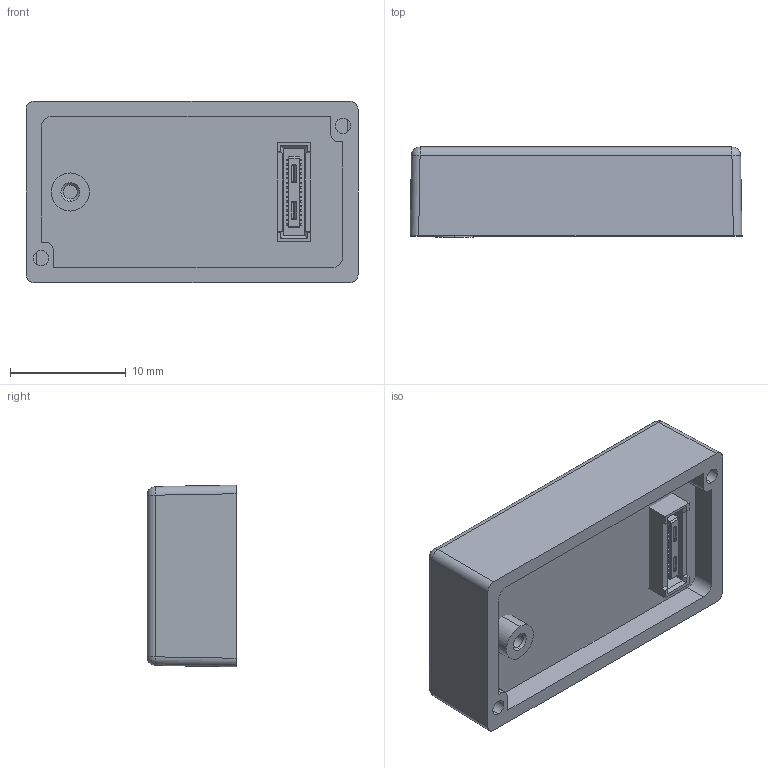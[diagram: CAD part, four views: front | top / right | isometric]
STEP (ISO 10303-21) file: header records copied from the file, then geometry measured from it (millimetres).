
FILE_DESCRIPTION (( 'STEP AP214' ), '1' );
FILE_NAME ('HSM Can Assembly REV D 1.0.1 (HSM6) STRIPPED DOWN.STEP', '2021-07-14T22:20:42', ( '' ), ( '' ), 'SwSTEP 2.0', 'SolidWorks 2021', '' );
FILE_SCHEMA (( 'AUTOMOTIVE_DESIGN' ));
Length unit declared in the file: inch
Products named in the file (1): HSM Can Assembly REV D 1.0.1 (HSM6) STRIPPED DOWN
Bounding box: 28.74 x 7.79 x 15.74 mm (x, y, z)
Surface area: 2190.6 mm2 (no closed solid volume)
Topology: 0 solids, 5 shells, 303 faces, 1232 edges, 891 vertices
Faces by surface type: plane 195, cylinder 61, bspline 25, cone 18, sphere 4
Entity records: 19084 total; most frequent: CARTESIAN_POINT 5338, DIRECTION 1937, ORIENTED_EDGE 1854, EDGE_CURVE 1228, VERTEX_POINT 891, LINE 867, VECTOR 867, AXIS2_PLACEMENT_3D 535
